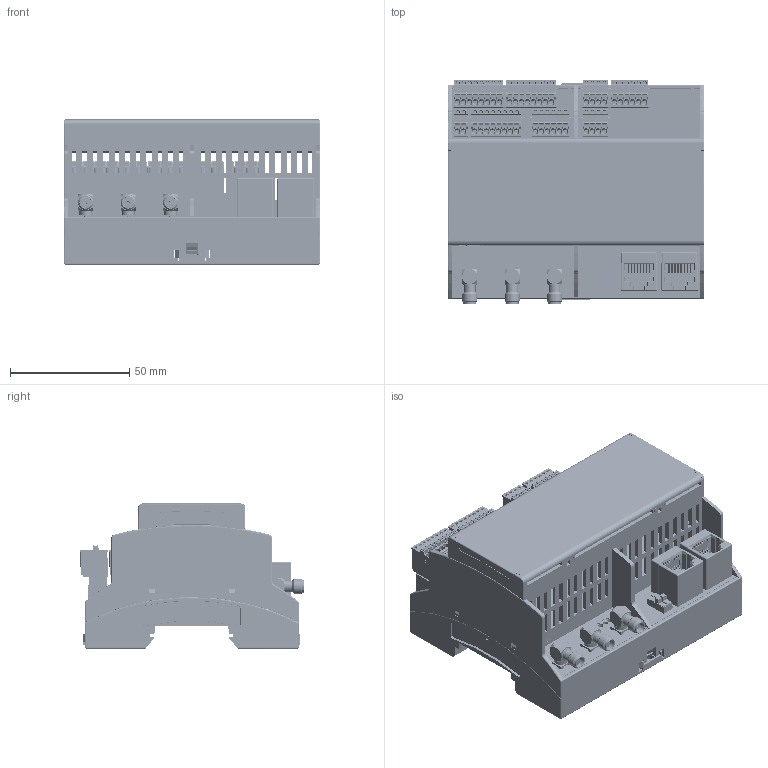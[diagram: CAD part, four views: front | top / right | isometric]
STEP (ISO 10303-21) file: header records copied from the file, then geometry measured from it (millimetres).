
FILE_DESCRIPTION (( 'STEP AP214' ), '1' );
FILE_NAME ('CUA32-SLV-DC.STEP', '2010-09-16T02:50:47', ( '' ), ( '' ), 'SwSTEP 2.0', 'SolidWorks 2011', '' );
FILE_SCHEMA (( 'AUTOMOTIVE_DESIGN' ));
Length unit declared in the file: millimetre
Products named in the file (17): 1881325_05; 1881383_05; 1881367_05; 1881341_05; LED; 2896173; 2896089; Switch; 615008138021-rev1; 7644; 1881574_00; 1881613_00; 1881558_01; 1881590_00; 2896270; PCB_CUA32-SLV-DC; CUA32-SLV-DC
Assembly tree (29 placements, depth 2):
  CUA32-SLV-DC
    1881341_05  x2
    LED
    7644  x3
    1881367_05  x2
    1881325_05
    1881574_00  x2
    1881558_01
    1881383_05  x3
    Switch  x3
    615008138021-rev1  x2
    2896173
    1881613_00  x3
    PCB_CUA32-SLV-DC
    1881590_00  x2
    2896089
    2896270
Bounding box: 107.6 x 94.14 x 60.8 mm (x, y, z)
Volume: 115270.1 mm3; surface area: 144466.9 mm2
Topology: 29 solids, 65 shells, 10578 faces, 29204 edges, 19273 vertices
Faces by surface type: plane 7569, cylinder 2644, cone 309, bspline 56
Entity records: 265621 total; most frequent: CARTESIAN_POINT 42007, ORIENTED_EDGE 34602, DIRECTION 31945, EDGE_CURVE 17600, LINE 13385, VECTOR 13385, VERTEX_POINT 11651, AXIS2_PLACEMENT_3D 9280
